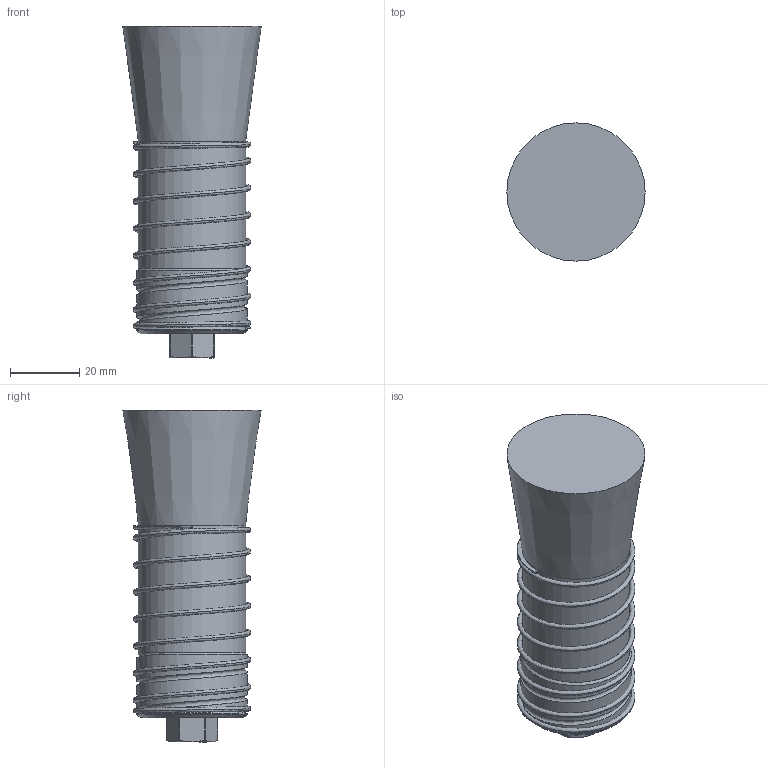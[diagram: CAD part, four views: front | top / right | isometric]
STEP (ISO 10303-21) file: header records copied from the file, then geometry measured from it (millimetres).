
FILE_DESCRIPTION (( 'STEP AP214' ), '1' );
FILE_NAME ('012_0130_0170_50.STEP', '2026-01-14T15:41:34', ( '' ), ( '' ), 'SwSTEP 2.0', 'SolidWorks 2022', '' );
FILE_SCHEMA (( 'AUTOMOTIVE_DESIGN' ));
Length unit declared in the file: millimetre
Products named in the file (3): 012_0130_0170_50; VD_206A_20_2
Assembly tree (2 placements, depth 2):
  012_0130_0170_50
    012_0130_0170_50
    VD_206A_20_2
Bounding box: 40 x 40 x 96 mm (x, y, z)
Volume: 77700.6 mm3; surface area: 15978.3 mm2
Topology: 2 solids, 3 shells, 46 faces, 108 edges, 69 vertices
Faces by surface type: plane 16, cylinder 12, cone 12, bspline 6
Full cylindrical faces by diameter (mm): 2 x1, 8.57 x1, 29 x1, 31 x1, 32 x1
Entity records: 12006 total; most frequent: CARTESIAN_POINT 11005, ORIENTED_EDGE 174, DIRECTION 152, EDGE_CURVE 87, AXIS2_PLACEMENT_3D 66, VERTEX_POINT 62, EDGE_LOOP 59, FACE_OUTER_BOUND 50
